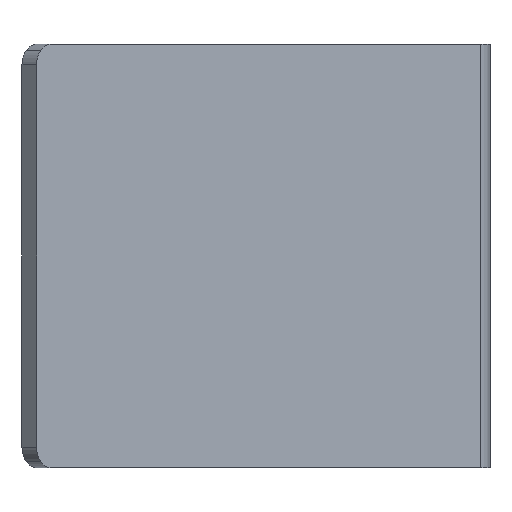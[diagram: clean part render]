
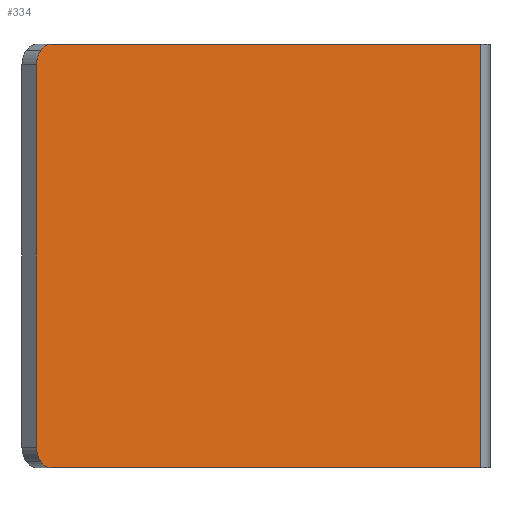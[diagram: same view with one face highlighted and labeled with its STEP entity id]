
A CAD part, left-side view. The second image highlights one B-rep face of the part: STEP entity #334.
In plain terms, the highlighted planar face has unit normal (-0.707, -0.707, 0).
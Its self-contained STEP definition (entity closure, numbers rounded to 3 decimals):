
#133=CARTESIAN_POINT('',(-66.986,-1.557,40.414));
#134=VERTEX_POINT('',#133);
#143=CARTESIAN_POINT('',(-65.986,-2.557,41.));
#144=VERTEX_POINT('',#143);
#145=CARTESIAN_POINT('',(-65.986,-2.557,39.0));
#146=DIRECTION('',(0.707,0.707,0.));
#147=DIRECTION('',(-0.5,0.5,0.707));
#148=AXIS2_PLACEMENT_3D('',#145,#146,#147);
#149=CIRCLE('',#148,2.0);
#150=EDGE_CURVE('',#134,#144,#149,.T.);
#217=CARTESIAN_POINT('',(-66.986,-1.557,0.586));
#218=VERTEX_POINT('',#217);
#227=CARTESIAN_POINT('',(-67.4,-1.143,2.0));
#228=VERTEX_POINT('',#227);
#229=CARTESIAN_POINT('',(-65.986,-2.557,2.0));
#230=DIRECTION('',(0.707,0.707,0.));
#231=DIRECTION('',(-0.5,0.5,-0.707));
#232=AXIS2_PLACEMENT_3D('',#229,#230,#231);
#233=CIRCLE('',#232,2.0);
#234=EDGE_CURVE('',#218,#228,#233,.T.);
#269=CARTESIAN_POINT('',(-65.986,-2.557,0.0));
#270=VERTEX_POINT('',#269);
#277=CARTESIAN_POINT('',(-65.986,-2.557,2.0));
#278=DIRECTION('',(0.707,0.707,0.));
#279=DIRECTION('',(-0.5,0.5,-0.707));
#280=AXIS2_PLACEMENT_3D('',#277,#278,#279);
#281=CIRCLE('',#280,2.0);
#282=EDGE_CURVE('',#270,#218,#281,.T.);
#287=CARTESIAN_POINT('',(-24.421,-44.121,0.0));
#288=DIRECTION('',(-0.707,-0.707,0.0));
#289=DIRECTION('',(0.0,0.0,1.0));
#290=AXIS2_PLACEMENT_3D('',#287,#288,#289);
#291=PLANE('',#290);
#292=ORIENTED_EDGE('',*,*,#282,.F.);
#293=CARTESIAN_POINT('',(-24.421,-44.121,0.0));
#294=VERTEX_POINT('',#293);
#295=CARTESIAN_POINT('',(-24.421,-44.121,0.0));
#296=DIRECTION('',(-0.707,0.707,0.0));
#297=VECTOR('',#296,58.781);
#298=LINE('',#295,#297);
#299=EDGE_CURVE('',#294,#270,#298,.T.);
#300=ORIENTED_EDGE('',*,*,#299,.F.);
#301=CARTESIAN_POINT('',(-24.421,-44.121,41.));
#302=VERTEX_POINT('',#301);
#303=CARTESIAN_POINT('',(-24.421,-44.121,0.0));
#304=DIRECTION('',(0.0,0.0,1.0));
#305=VECTOR('',#304,41.);
#306=LINE('',#303,#305);
#307=EDGE_CURVE('',#294,#302,#306,.T.);
#308=ORIENTED_EDGE('',*,*,#307,.T.);
#309=CARTESIAN_POINT('',(-24.421,-44.121,41.));
#310=DIRECTION('',(-0.707,0.707,0.0));
#311=VECTOR('',#310,58.781);
#312=LINE('',#309,#311);
#313=EDGE_CURVE('',#302,#144,#312,.T.);
#314=ORIENTED_EDGE('',*,*,#313,.T.);
#315=ORIENTED_EDGE('',*,*,#150,.F.);
#316=CARTESIAN_POINT('',(-67.4,-1.143,39.0));
#317=VERTEX_POINT('',#316);
#318=CARTESIAN_POINT('',(-65.986,-2.557,39.0));
#319=DIRECTION('',(0.707,0.707,0.));
#320=DIRECTION('',(-0.5,0.5,0.707));
#321=AXIS2_PLACEMENT_3D('',#318,#319,#320);
#322=CIRCLE('',#321,2.0);
#323=EDGE_CURVE('',#317,#134,#322,.T.);
#324=ORIENTED_EDGE('',*,*,#323,.F.);
#325=CARTESIAN_POINT('',(-67.4,-1.143,2.0));
#326=DIRECTION('',(0.0,0.0,1.0));
#327=VECTOR('',#326,37.0);
#328=LINE('',#325,#327);
#329=EDGE_CURVE('',#228,#317,#328,.T.);
#330=ORIENTED_EDGE('',*,*,#329,.F.);
#331=ORIENTED_EDGE('',*,*,#234,.F.);
#332=EDGE_LOOP('',(#292,#300,#308,#314,#315,#324,#330,#331));
#333=FACE_OUTER_BOUND('',#332,.T.);
#334=ADVANCED_FACE('',(#333),#291,.T.);
